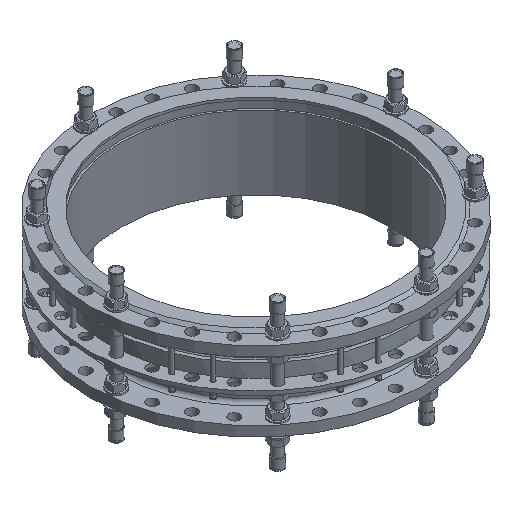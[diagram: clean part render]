
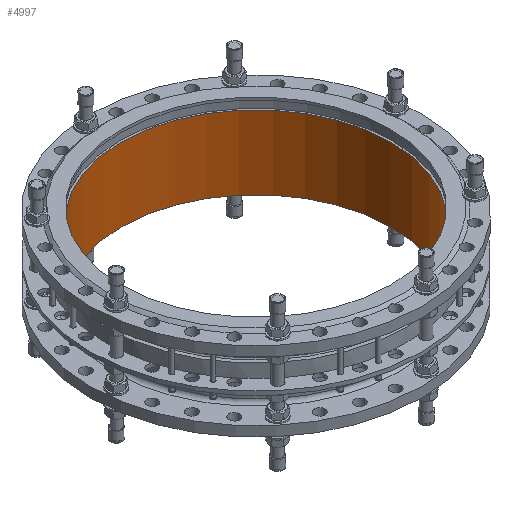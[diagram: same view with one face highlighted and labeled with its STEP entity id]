
A CAD part, isometric view. The second image highlights one B-rep face of the part: STEP entity #4997.
In plain terms, the highlighted cylindrical face has radius 550 mm (diameter 1100 mm), a full revolution.
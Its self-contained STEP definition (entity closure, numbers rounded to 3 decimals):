
#4997=ADVANCED_FACE('',(#5701,#5703),#5705,.F.);
#5701=FACE_OUTER_BOUND('',#5702,.T.);
#5702=EDGE_LOOP('',(#8480));
#5703=FACE_OUTER_BOUND('',#5704,.T.);
#5704=EDGE_LOOP('',(#8481));
#5705=CYLINDRICAL_SURFACE('',#5706,550.);
#5706=AXIS2_PLACEMENT_3D('',#5707,#5708,#5709);
#5707=CARTESIAN_POINT('',(0.,0.,0.));
#5708=DIRECTION('',(0.,0.,1.));
#5709=DIRECTION('',(-1.,0.,0.));
#8480=ORIENTED_EDGE('',*,*,#10155,.F.);
#8481=ORIENTED_EDGE('',*,*,#10156,.F.);
#10155=EDGE_CURVE('',#10908,#10908,#10909,.T.);
#10156=EDGE_CURVE('',#10910,#10910,#10911,.T.);
#10908=VERTEX_POINT('',#12265);
#10909=CIRCLE('',#12266,550.);
#10910=VERTEX_POINT('',#12270);
#10911=CIRCLE('',#12271,550.);
#12265=CARTESIAN_POINT('',(-550.,0.,300.));
#12266=AXIS2_PLACEMENT_3D('',#12267,#12268,#12269);
#12267=CARTESIAN_POINT('',(0.,0.,300.));
#12268=DIRECTION('',(0.,0.,-1.));
#12269=DIRECTION('',(-1.,0.,0.));
#12270=CARTESIAN_POINT('',(-550.,0.,0.));
#12271=AXIS2_PLACEMENT_3D('',#12272,#12273,#12274);
#12272=CARTESIAN_POINT('',(0.,0.,0.));
#12273=DIRECTION('',(0.,0.,1.));
#12274=DIRECTION('',(-1.,0.,0.));
